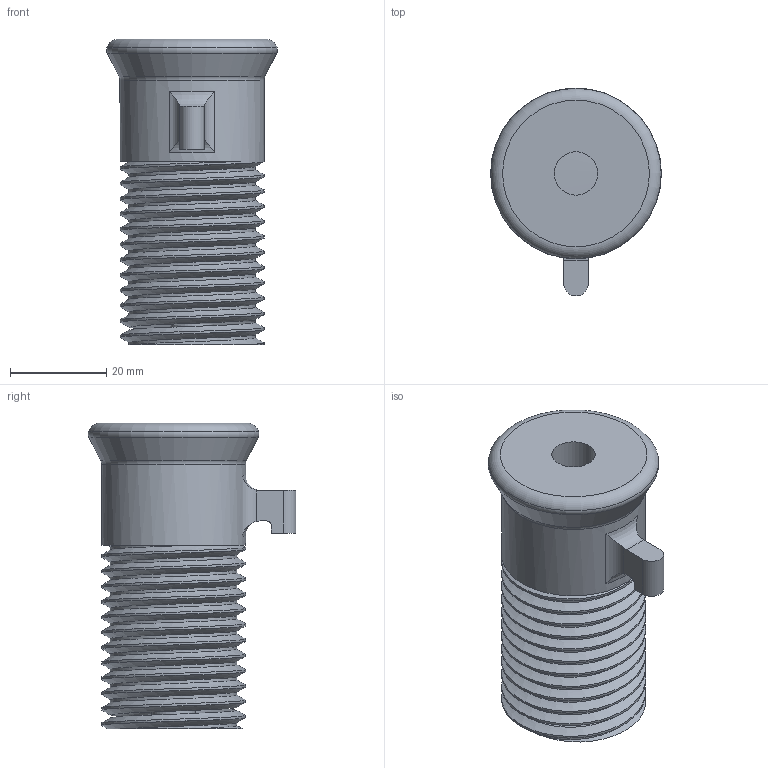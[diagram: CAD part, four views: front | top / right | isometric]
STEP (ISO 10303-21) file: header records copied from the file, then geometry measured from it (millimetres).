
FILE_DESCRIPTION(/* description */ (''),/* implementation_level */ '2;1');
FILE_NAME(/* name */ 'C:/Users/Owner/Desktop/liberator suppressed/STEP Files/36 Caliber versions/36 Cal Threaded Liberator barrel.step',/* time_stamp */ '2020-04-23T21:31:05-04:00',/* author */ (''),/* organization */ (''),/* preprocessor_version */ 'ST-DEVELOPER v18.1',/* originating_system */ 'Autodesk Translation Framework v9.2.0.1227',/* authorisation */ '');
FILE_SCHEMA (('AUTOMOTIVE_DESIGN { 1 0 10303 214 3 1 1 }'));
Length unit declared in the file: inch
Products named in the file (1): 38/9mm threaded barrel
Bounding box: 35.48 x 43.14 x 63.5 mm (x, y, z)
Volume: 40062.5 mm3; surface area: 11799.9 mm2
Topology: 1 solids, 1 shells, 51 faces, 142 edges, 94 vertices
Faces by surface type: cylinder 33, plane 8, torus 7, bspline 2, cone 1
Full cylindrical faces by diameter (mm): 9.017 x1, 26.33 x12, 29.919 x12
Entity records: 4526 total; most frequent: CARTESIAN_POINT 3273, ORIENTED_EDGE 284, DIRECTION 209, EDGE_CURVE 142, VERTEX_POINT 94, AXIS2_PLACEMENT_3D 83, B_SPLINE_CURVE_WITH_KNOTS 66, EDGE_LOOP 54
